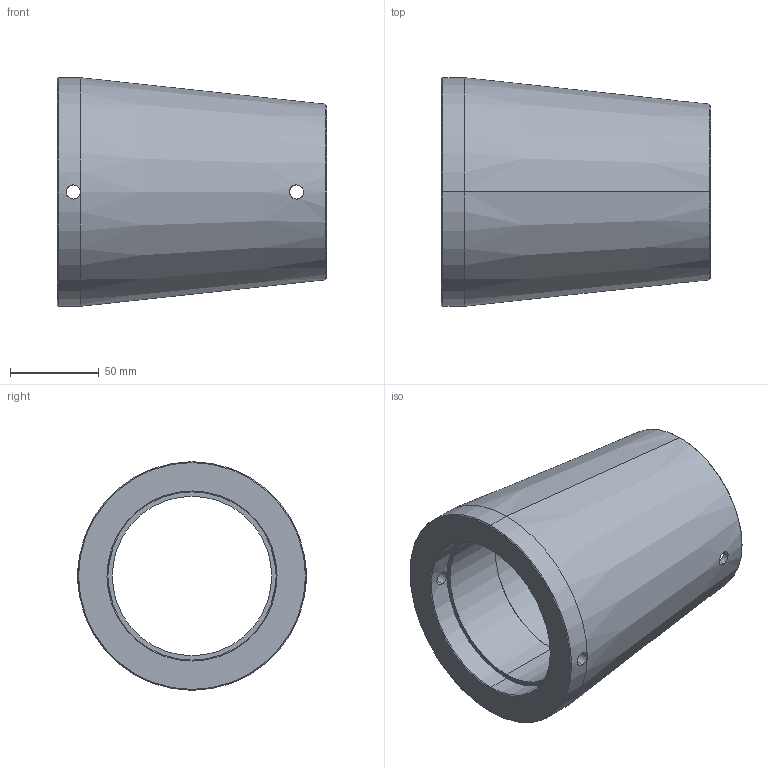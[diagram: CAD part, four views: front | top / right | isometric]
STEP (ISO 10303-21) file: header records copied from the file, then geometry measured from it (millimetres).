
FILE_DESCRIPTION (( 'STEP AP203' ), '1' );
FILE_NAME ('Abdeckhülse M90.STEP', '2018-02-20T06:55:14', ( 'install' ), ( 'Hewlett-Packard Company' ), 'SwSTEP 2.0', 'SolidWorks 2017', '' );
FILE_SCHEMA (( 'CONFIG_CONTROL_DESIGN' ));
Length unit declared in the file: millimetre
Products named in the file (1): Abdeckhülse M90
Bounding box: 152 x 129 x 129 mm (x, y, z)
Volume: 591305.1 mm3; surface area: 107506.7 mm2
Topology: 1 solids, 1 shells, 31 faces, 82 edges, 50 vertices
Faces by surface type: cylinder 18, cone 8, plane 5
Entity records: 1541 total; most frequent: CARTESIAN_POINT 694, ORIENTED_EDGE 164, DIRECTION 158, EDGE_CURVE 82, AXIS2_PLACEMENT_3D 66, VERTEX_POINT 50, EDGE_LOOP 38, CIRCLE 34
